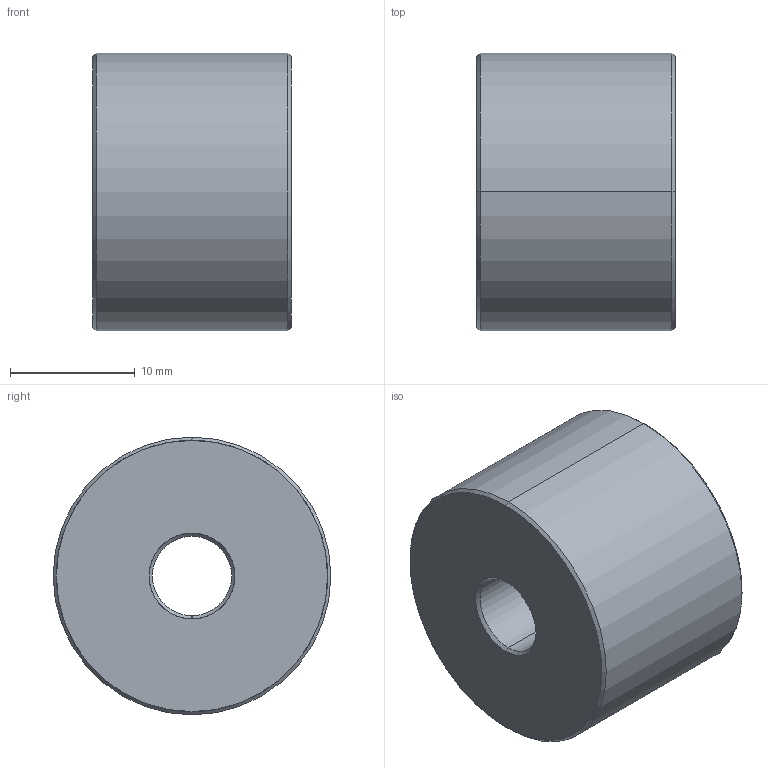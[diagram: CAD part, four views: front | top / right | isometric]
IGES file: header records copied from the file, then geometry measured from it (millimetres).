
Start section: SolidWorks IGES file using analytic representation for surfaces
Global section: file name: \\SERVER3\Design\_New Design Drive Folder List\_Design Vault\AAI\Modular Round Tube Connectors\Solidworks Models\STP Files\12202013\0.750 Inch Modular Connectors\DRP-002-0554-00.IGS; native system: SolidWorks 2013; preprocessor: SolidWorks 2013; author: tbraun; date: 131220.124102; units: inch
Bounding box: 15.88 x 22.23 x 22.23 mm (x, y, z)
Surface area: 2111 mm2 (no closed solid volume)
Topology: 0 solids, 0 shells, 14 faces, 176 edges, 176 vertices
Faces by surface type: revolution 12, bspline 2
